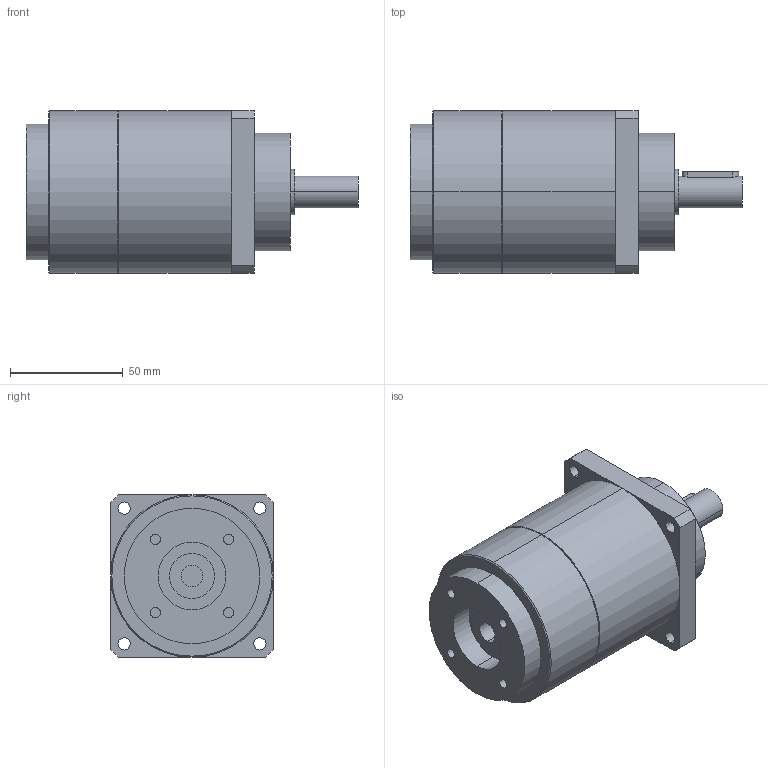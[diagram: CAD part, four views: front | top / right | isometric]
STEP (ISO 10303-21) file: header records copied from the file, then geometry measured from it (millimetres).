
FILE_DESCRIPTION(('CoCreate Modeling STEP Export'),'2;1');
FILE_NAME('GPT75_ig-9-12-16-20-25-28-35-40-50-70-100_14_B5T_9.52_P21.stp','2014-08-27T13:43:17',(''),(''),'CoCreate Modeling STEP processor for AP214 (Solid Model)','CoCreate Modeling 16.00C 25-Feb-2009 (C) Parametric Technology GmbH','');
FILE_SCHEMA(('AUTOMOTIVE_DESIGN { 1 0 10303 214 1 1 1 1 }'));
Length unit declared in the file: millimetre
Products named in the file (2): GPT75_ig-9-12-16-20-25-28-35-40-50-70-100_14_B5T_9.52_P21
Assembly tree (1 placements, depth 2):
  GPT75_ig-9-12-16-20-25-28-35-40-50-70-100_14_B5T_9.52_P21
    GPT75_ig-9-12-16-20-25-28-35-40-50-70-100_14_B5T_9.52_P21
Bounding box: 147 x 72 x 72 mm (x, y, z)
Volume: 438719 mm3; surface area: 40893.3 mm2
Topology: 1 solids, 1 shells, 72 faces, 170 edges, 113 vertices
Faces by surface type: cylinder 42, plane 26, cone 4
Entity records: 2201 total; most frequent: CARTESIAN_POINT 669, ORIENTED_EDGE 340, DIRECTION 268, EDGE_CURVE 170, VERTEX_POINT 113, AXIS2_PLACEMENT_3D 100, EDGE_LOOP 93, FACE_OUTER_BOUND 72
